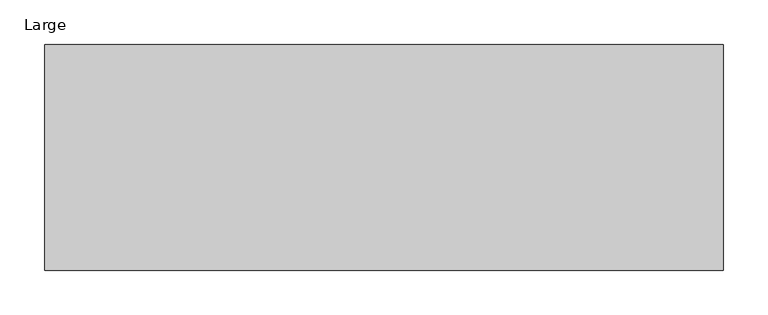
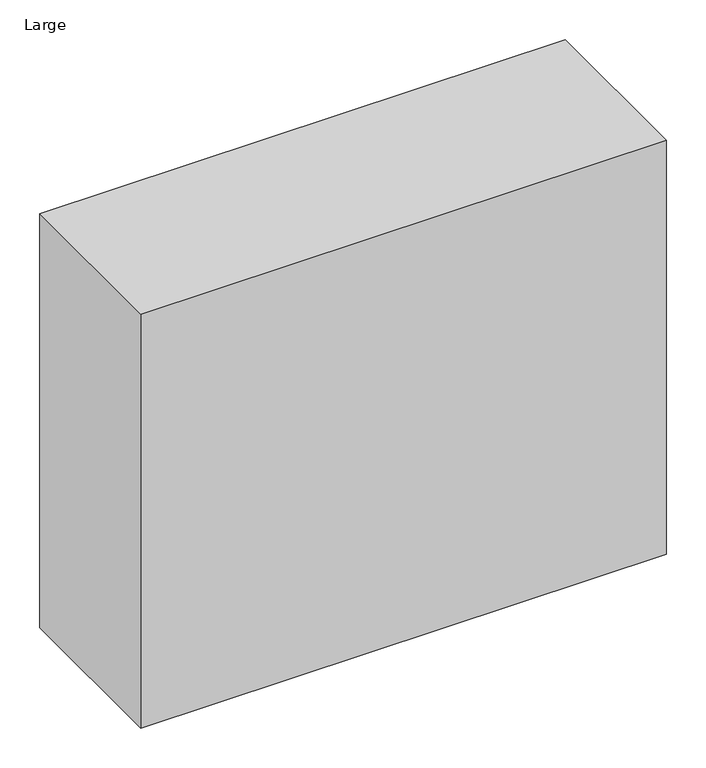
"""IFC4 building model written with IfcOpenShell, lengths in millimetres: proxy geometry, Power Inverter : Large."""

from ifc_helpers import new_model, si_unit, origin, origin_with_axes, place, context, project, spatial, polyline, outline, extrude, source, transform, mapped, element, save


def large_9efaeace(model_context):
    return source(origin(), model_context, "Body", "SweptSolid", [
        extrude(outline(polyline([(381.0, 127.0), (381.0, -127.0), (-381.0, -127.0), (-381.0, 127.0), (381.0, 127.0)])), origin_with_axes(), (0.0, 0.0, 1.0), 635.0),
    ])


if __name__ == "__main__":
    model = new_model("IFC4")
    model_context = context("Model", 3, world=origin())
    ifc_project = project(units=[si_unit("LENGTHUNIT", "METRE", prefix="MILLI")], contexts=[model_context])
    site = spatial("IfcSite", under=ifc_project)
    building = spatial("IfcBuilding", under=site)
    placement = place(None, origin())
    large_shape = large_9efaeace(model_context)
    element("IfcBuildingElementProxy", 1, Name="Power Inverter : Large", ObjectType="Power Inverter : Large", at=placement, inside=building, context=model_context, shape_type="MappedRepresentation", body=[
        mapped(large_shape, transform((0.0, 0.0, 0.0), x_axis=(1.0, 0.0, 0.0), y_axis=(0.0, 1.0, 0.0), z_axis=(0.0, 0.0, 1.0))),
    ])
    save(model, "model.ifc")
